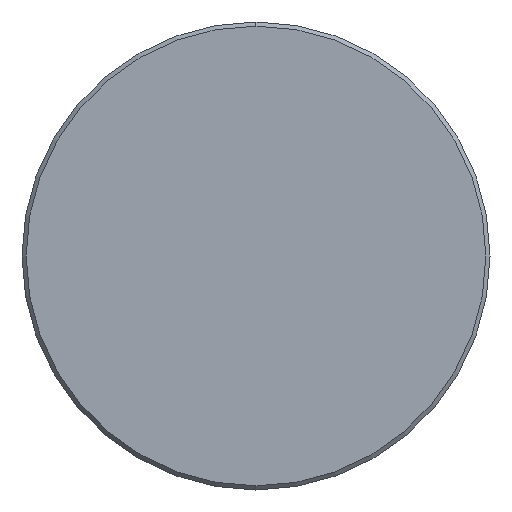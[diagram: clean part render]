
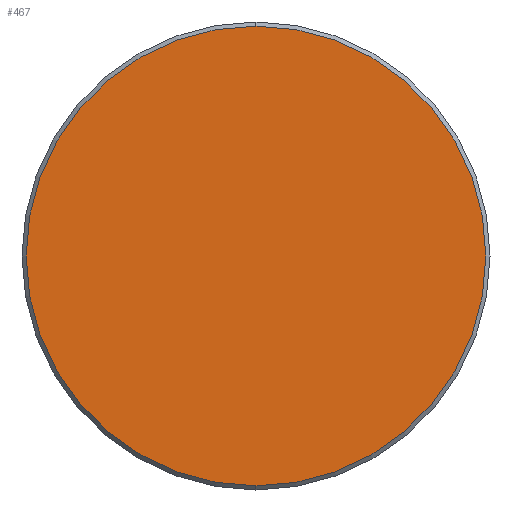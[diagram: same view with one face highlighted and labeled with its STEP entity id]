
A CAD part, left-side view. The second image highlights one B-rep face of the part: STEP entity #467.
In plain terms, the highlighted planar face has unit normal (-1, 0, 0).
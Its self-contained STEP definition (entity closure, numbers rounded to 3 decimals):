
#54 = VERTEX_POINT ( 'NONE', #134 ) ;
#122 = DIRECTION ( 'NONE',  ( -1., 0., 0. ) ) ;
#134 = CARTESIAN_POINT ( 'NONE',  ( 0., 0., 16.7 ) ) ;
#198 = DIRECTION ( 'NONE',  ( -1., 0., 0. ) ) ;
#217 = DIRECTION ( 'NONE',  ( 1., 0., 0. ) ) ;
#243 = CARTESIAN_POINT ( 'NONE',  ( 0., 0., 0. ) ) ;
#250 = DIRECTION ( 'NONE',  ( 0., 0., 1. ) ) ;
#281 = AXIS2_PLACEMENT_3D ( 'NONE', #514, #217, #376 ) ;
#325 = EDGE_LOOP ( 'NONE', ( #374, #679 ) ) ;
#371 = PLANE ( 'NONE',  #281 ) ;
#374 = ORIENTED_EDGE ( 'NONE', *, *, #482, .T. ) ;
#376 = DIRECTION ( 'NONE',  ( 0., 0., -1. ) ) ;
#400 = EDGE_CURVE ( 'NONE', #54, #449, #598, .T. ) ;
#430 = FACE_OUTER_BOUND ( 'NONE', #325, .T. ) ;
#434 = AXIS2_PLACEMENT_3D ( 'NONE', #676, #122, #435 ) ;
#435 = DIRECTION ( 'NONE',  ( 0., 0., 1. ) ) ;
#449 = VERTEX_POINT ( 'NONE', #543 ) ;
#467 = ADVANCED_FACE ( 'NONE', ( #430 ), #371, .F. ) ;
#482 = EDGE_CURVE ( 'NONE', #449, #54, #483, .T. ) ;
#483 = CIRCLE ( 'NONE', #434, 16.7 ) ;
#514 = CARTESIAN_POINT ( 'NONE',  ( 0., 0., 0. ) ) ;
#528 = AXIS2_PLACEMENT_3D ( 'NONE', #243, #198, #250 ) ;
#543 = CARTESIAN_POINT ( 'NONE',  ( 0., 0., -16.7 ) ) ;
#598 = CIRCLE ( 'NONE', #528, 16.7 ) ;
#676 = CARTESIAN_POINT ( 'NONE',  ( 0., 0., 0. ) ) ;
#679 = ORIENTED_EDGE ( 'NONE', *, *, #400, .T. ) ;
